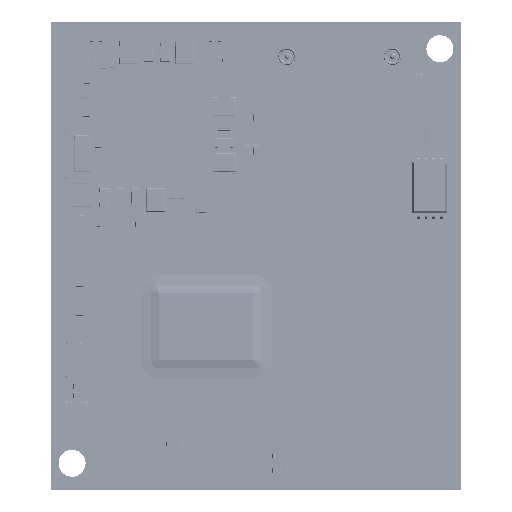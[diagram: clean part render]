
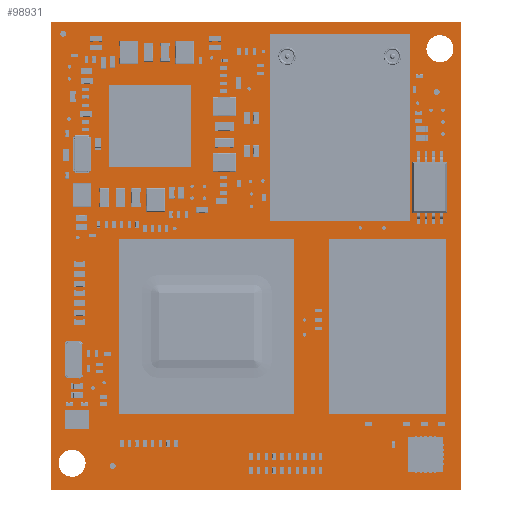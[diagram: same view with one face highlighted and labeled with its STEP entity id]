
A CAD part, top view. The second image highlights one B-rep face of the part: STEP entity #98931.
In plain terms, the highlighted planar face has unit normal (0, 0, 1).
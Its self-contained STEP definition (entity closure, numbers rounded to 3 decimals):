
#38425=CIRCLE($,#84791,1.156);
#38426=CIRCLE($,#84792,1.156);
#38429=CIRCLE($,#84797,1.156);
#38430=CIRCLE($,#84798,1.156);
#73310=FACE_OUTER_BOUND($,#78867,.F.);
#73316=FACE_OUTER_BOUND($,#78873,.T.);
#73320=FACE_OUTER_BOUND($,#78877,.T.);
#78867=EDGE_LOOP($,(#104613,#104614,#104615,#104616));
#78873=EDGE_LOOP($,(#104637,#104638));
#78877=EDGE_LOOP($,(#104649,#104650));
#84785=AXIS2_PLACEMENT_3D($,#202986,#172218,$);
#84791=AXIS2_PLACEMENT_3D($,#202998,#172218,$);
#84792=AXIS2_PLACEMENT_3D($,#202999,#172218,$);
#84797=AXIS2_PLACEMENT_3D($,#203010,#172218,$);
#84798=AXIS2_PLACEMENT_3D($,#203011,#172218,$);
#96206=PLANE($,#84785);
#98931=ADVANCED_FACE($,(#73310,#73316,#73320),#96206,.T.);
#104613=ORIENTED_EDGE($,*,*,#130819,.T.);
#104614=ORIENTED_EDGE($,*,*,#130820,.T.);
#104615=ORIENTED_EDGE($,*,*,#130821,.T.);
#104616=ORIENTED_EDGE($,*,*,#130822,.T.);
#104637=ORIENTED_EDGE($,*,*,#130832,.T.);
#104638=ORIENTED_EDGE($,*,*,#130833,.T.);
#104649=ORIENTED_EDGE($,*,*,#130839,.T.);
#104650=ORIENTED_EDGE($,*,*,#130840,.T.);
#130819=EDGE_CURVE($,#161743,#161744,#152834,.T.);
#130820=EDGE_CURVE($,#161744,#161745,#152835,.T.);
#130821=EDGE_CURVE($,#161745,#161746,#152836,.T.);
#130822=EDGE_CURVE($,#161746,#161743,#152837,.T.);
#130832=EDGE_CURVE($,#161753,#161754,#38425,.F.);
#130833=EDGE_CURVE($,#161754,#161753,#38426,.F.);
#130839=EDGE_CURVE($,#161759,#161760,#38429,.F.);
#130840=EDGE_CURVE($,#161760,#161759,#38430,.F.);
#143925=VECTOR($,#172221,40.);
#143926=VECTOR($,#172222,35.001);
#143927=VECTOR($,#172223,40.);
#143928=VECTOR($,#172224,35.001);
#152834=LINE($,#202985,#143925);
#152835=LINE($,#202986,#143926);
#152836=LINE($,#202987,#143927);
#152837=LINE($,#202988,#143928);
#161743=VERTEX_POINT($,#202985);
#161744=VERTEX_POINT($,#202986);
#161745=VERTEX_POINT($,#202987);
#161746=VERTEX_POINT($,#202988);
#161753=VERTEX_POINT($,#202995);
#161754=VERTEX_POINT($,#202996);
#161759=VERTEX_POINT($,#203007);
#161760=VERTEX_POINT($,#203008);
#172218=DIRECTION($,(0.,0.,1.));
#172221=DIRECTION($,(0.,1.,0.));
#172222=DIRECTION($,(1.,0.,0.));
#172223=DIRECTION($,(0.,-1.,0.));
#172224=DIRECTION($,(-1.,0.,0.));
#202985=CARTESIAN_POINT('',(0.,0.,0.));
#202986=CARTESIAN_POINT('',(0.,40.,0.));
#202987=CARTESIAN_POINT('',(35.001,40.,0.));
#202988=CARTESIAN_POINT('',(35.001,0.,0.));
#202995=CARTESIAN_POINT('',(34.379,37.714,0.));
#202996=CARTESIAN_POINT('',(32.068,37.714,0.));
#202998=CARTESIAN_POINT('',(33.223,37.714,0.));
#202999=CARTESIAN_POINT('',(33.223,37.714,0.));
#203007=CARTESIAN_POINT('',(2.934,2.286,0.));
#203008=CARTESIAN_POINT('',(0.622,2.286,0.));
#203010=CARTESIAN_POINT('',(1.778,2.286,0.));
#203011=CARTESIAN_POINT('',(1.778,2.286,0.));
